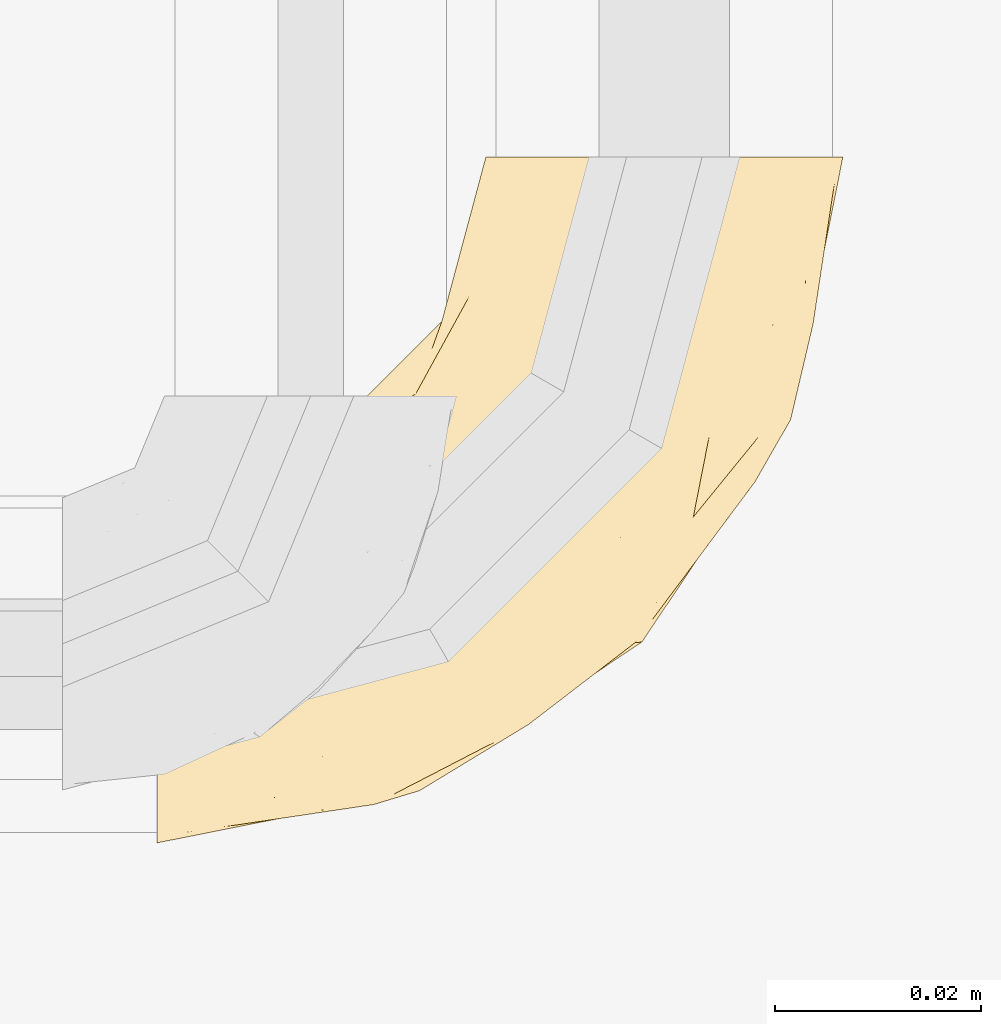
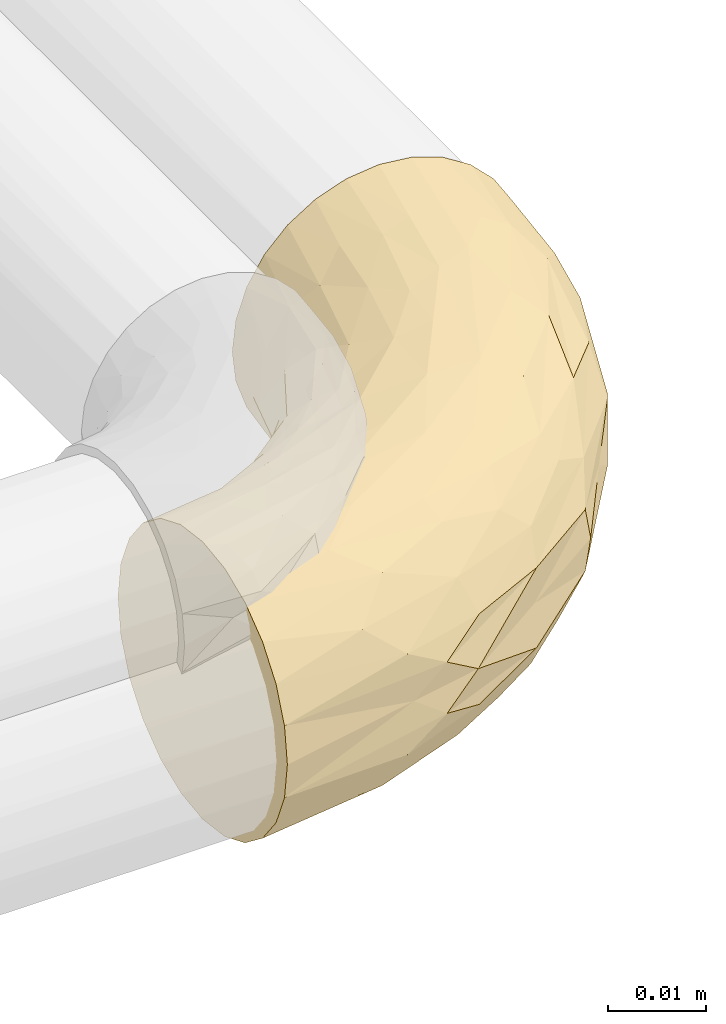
# One storey, part 8 of 30: 1 covering.
"""IFC2X3 building model written with IfcOpenShell, lengths in metres."""

from ifc_helpers import new_model, entity, si_unit, converted_unit, derived_unit, direction, frame, origin, place, context, subcontext, project, spatial, faceted_brep, material, type_object, element, save


model = new_model("IFC2X3")

# Units and contexts
model_context = context("Model", 3, precision=1e-05, world=origin(), true_north=direction((6.123031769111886e-17, 1.0)))
body_context = subcontext(model_context, "Body", "Model", "MODEL_VIEW")
ifc_project = project(units=[si_unit("LENGTHUNIT", "METRE"), si_unit("AREAUNIT", "SQUARE_METRE"), si_unit("VOLUMEUNIT", "CUBIC_METRE"), converted_unit("PLANEANGLEUNIT", "DEGREE", entity("IfcPlaneAngleMeasure", 0.017453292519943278), si_unit("PLANEANGLEUNIT", "RADIAN"), dimensions=[0, 0, 0, 0, 0, 0, 0]), si_unit("MASSUNIT", "GRAM", prefix="KILO"), derived_unit("MASSDENSITYUNIT", [(si_unit("MASSUNIT", "GRAM", prefix="KILO"), 1), (si_unit("LENGTHUNIT", "METRE"), -3)]), derived_unit("IONCONCENTRATIONUNIT", [(si_unit("MASSUNIT", "GRAM", prefix="KILO"), 1), (si_unit("LENGTHUNIT", "METRE"), -3)]), derived_unit("MOMENTOFINERTIAUNIT", [(si_unit("LENGTHUNIT", "METRE"), 4)]), si_unit("TIMEUNIT", "SECOND"), si_unit("FREQUENCYUNIT", "HERTZ"), si_unit("THERMODYNAMICTEMPERATUREUNIT", "DEGREE_CELSIUS"), derived_unit("THERMALTRANSMITTANCEUNIT", [(si_unit("MASSUNIT", "GRAM", prefix="KILO"), 1), (si_unit("THERMODYNAMICTEMPERATUREUNIT", "KELVIN"), -1), (si_unit("TIMEUNIT", "SECOND"), -3)]), derived_unit("THERMALCONDUCTANCEUNIT", [(si_unit("MASSUNIT", "GRAM", prefix="KILO"), 1), (si_unit("THERMODYNAMICTEMPERATUREUNIT", "KELVIN"), -1), (si_unit("TIMEUNIT", "SECOND"), -3), (si_unit("LENGTHUNIT", "METRE"), 1)]), derived_unit("VOLUMETRICFLOWRATEUNIT", [(si_unit("LENGTHUNIT", "METRE", prefix="DECI"), 3), (si_unit("TIMEUNIT", "SECOND"), -1)]), derived_unit("MASSFLOWRATEUNIT", [(si_unit("MASSUNIT", "GRAM", prefix="KILO"), 1), (si_unit("TIMEUNIT", "SECOND"), -1)]), derived_unit("ROTATIONALFREQUENCYUNIT", [(si_unit("TIMEUNIT", "SECOND"), -1)]), si_unit("ELECTRICCURRENTUNIT", "AMPERE"), si_unit("ELECTRICVOLTAGEUNIT", "VOLT"), si_unit("POWERUNIT", "WATT"), si_unit("FORCEUNIT", "NEWTON", prefix="KILO"), si_unit("ILLUMINANCEUNIT", "LUX"), si_unit("LUMINOUSFLUXUNIT", "LUMEN"), si_unit("LUMINOUSINTENSITYUNIT", "CANDELA"), si_unit("ENERGYUNIT", "JOULE"), derived_unit("USERDEFINED", [(si_unit("MASSUNIT", "GRAM", prefix="KILO"), -1), (si_unit("LENGTHUNIT", "METRE"), -2), (si_unit("TIMEUNIT", "SECOND"), 3), (si_unit("LUMINOUSFLUXUNIT", "LUMEN"), 1)]), derived_unit("USERDEFINED", [(si_unit("MASSUNIT", "GRAM", prefix="KILO"), 1), (si_unit("TIMEUNIT", "SECOND"), -3), (si_unit("LENGTHUNIT", "METRE"), 3), (si_unit("ELECTRICCURRENTUNIT", "AMPERE"), -2)]), derived_unit("SOUNDPOWERUNIT", [(si_unit("MASSUNIT", "GRAM", prefix="KILO"), 1), (si_unit("TIMEUNIT", "SECOND"), -3), (si_unit("LENGTHUNIT", "METRE"), 2)]), derived_unit("SOUNDPRESSUREUNIT", [(si_unit("MASSUNIT", "GRAM", prefix="KILO"), 1), (si_unit("LENGTHUNIT", "METRE"), -1), (si_unit("TIMEUNIT", "SECOND"), -2)]), derived_unit("LINEARVELOCITYUNIT", [(si_unit("LENGTHUNIT", "METRE"), 1), (si_unit("TIMEUNIT", "SECOND"), -1)]), si_unit("PRESSUREUNIT", "PASCAL"), derived_unit("USERDEFINED", [(si_unit("MASSUNIT", "GRAM", prefix="KILO"), 1), (si_unit("LENGTHUNIT", "METRE"), -2), (si_unit("TIMEUNIT", "SECOND"), -2)]), derived_unit("LINEARFORCEUNIT", [(si_unit("MASSUNIT", "GRAM", prefix="KILO"), 1), (si_unit("TIMEUNIT", "SECOND"), -2)]), derived_unit("PLANARFORCEUNIT", [(si_unit("MASSUNIT", "GRAM", prefix="KILO"), 1), (si_unit("LENGTHUNIT", "METRE"), -1), (si_unit("TIMEUNIT", "SECOND"), -2)]), derived_unit("SPECIFICHEATCAPACITYUNIT", [(si_unit("THERMODYNAMICTEMPERATUREUNIT", "KELVIN"), -1), (si_unit("LENGTHUNIT", "METRE"), 2), (si_unit("TIMEUNIT", "SECOND"), -2)]), derived_unit("HEATFLUXDENSITYUNIT", [(si_unit("MASSUNIT", "GRAM", prefix="KILO"), 1), (si_unit("TIMEUNIT", "SECOND"), -3)]), derived_unit("HEATINGVALUEUNIT", [(si_unit("LENGTHUNIT", "METRE"), 2), (si_unit("TIMEUNIT", "SECOND"), -2)]), derived_unit("VAPORPERMEABILITYUNIT", [(si_unit("LENGTHUNIT", "METRE"), -1), (si_unit("TIMEUNIT", "SECOND"), 1)]), derived_unit("DYNAMICVISCOSITYUNIT", [(si_unit("MASSUNIT", "GRAM", prefix="KILO"), 1), (si_unit("TIMEUNIT", "SECOND"), -1), (si_unit("LENGTHUNIT", "METRE"), -1)]), derived_unit("THERMALEXPANSIONCOEFFICIENTUNIT", [(si_unit("THERMODYNAMICTEMPERATUREUNIT", "KELVIN"), -1)]), derived_unit("MODULUSOFELASTICITYUNIT", [(si_unit("MASSUNIT", "GRAM", prefix="KILO"), 1), (si_unit("LENGTHUNIT", "METRE"), -1), (si_unit("TIMEUNIT", "SECOND"), -2)]), derived_unit("ISOTHERMALMOISTURECAPACITYUNIT", [(si_unit("MASSUNIT", "GRAM", prefix="KILO"), -1), (si_unit("LENGTHUNIT", "METRE"), 3)]), derived_unit("MOISTUREDIFFUSIVITYUNIT", [(si_unit("TIMEUNIT", "SECOND"), -1), (si_unit("LENGTHUNIT", "METRE"), 2)]), derived_unit("MASSPERLENGTHUNIT", [(si_unit("MASSUNIT", "GRAM", prefix="KILO"), 1), (si_unit("LENGTHUNIT", "METRE"), -1)]), derived_unit("THERMALRESISTANCEUNIT", [(si_unit("MASSUNIT", "GRAM", prefix="KILO"), -1), (si_unit("TIMEUNIT", "SECOND"), 3), (si_unit("THERMODYNAMICTEMPERATUREUNIT", "KELVIN"), 1)]), derived_unit("ACCELERATIONUNIT", [(si_unit("LENGTHUNIT", "METRE"), 1), (si_unit("TIMEUNIT", "SECOND"), -2)]), derived_unit("ANGULARVELOCITYUNIT", [(si_unit("TIMEUNIT", "SECOND"), -1), (si_unit("PLANEANGLEUNIT", "RADIAN"), 1)]), derived_unit("LINEARSTIFFNESSUNIT", [(si_unit("MASSUNIT", "GRAM", prefix="KILO"), 1), (si_unit("TIMEUNIT", "SECOND"), -2)]), derived_unit("WARPINGCONSTANTUNIT", [(si_unit("LENGTHUNIT", "METRE"), 6)]), derived_unit("LINEARMOMENTUNIT", [(si_unit("MASSUNIT", "GRAM", prefix="KILO"), 1), (si_unit("LENGTHUNIT", "METRE"), 1), (si_unit("TIMEUNIT", "SECOND"), -2)]), derived_unit("TORQUEUNIT", [(si_unit("MASSUNIT", "GRAM", prefix="KILO"), 1), (si_unit("LENGTHUNIT", "METRE"), 2), (si_unit("TIMEUNIT", "SECOND"), -2)])], contexts=[model_context])

# Site, building, storey
site_placement = place(None, origin())
site = spatial("IfcSite", under=ifc_project, at=site_placement, Name="Default", CompositionType="ELEMENT")
building_placement = place(site_placement, origin())
building = spatial("IfcBuilding", under=site, at=building_placement, CompositionType="ELEMENT")
storey_placement = place(building_placement, origin())
storey = spatial("IfcBuildingStorey", under=building, at=storey_placement, Name="Niveau 0", CompositionType="ELEMENT", Elevation=-1.949160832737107e-14)

# Covering
ifc_material = material(Name="Matériau du rendu 255-255-255")
covering_type = type_object("IfcCoveringType", Name="Isolation des canalisations:Par défaut", PredefinedType="INSULATION")
covering_placement = place(storey_placement, frame((-19.87968470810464, 1.3561078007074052, -0.4339452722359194)))
element("IfcCovering", 1, at=covering_placement, inside=storey, type_object=covering_type, material=ifc_material, Name="Isolation des canalisations:Par défaut", ObjectType="Isolation des canalisations:Par défaut", PredefinedType="INSULATION", context=body_context, shape_type="Brep", body=[
    faceted_brep([(0.050895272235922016, 0.06824527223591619, 0.036295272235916), (0.054757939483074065, 0.06824527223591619, 0.03585983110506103), (0.05842589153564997, 0.06824527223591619, 0.034575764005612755), (0.06171546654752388, 0.06824527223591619, 0.032507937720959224), (0.06446206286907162, 0.06824527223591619, 0.029760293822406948), (0.06652829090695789, 0.06824527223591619, 0.026470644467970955), (0.06781077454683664, 0.06824527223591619, 0.022803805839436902), (0.0682452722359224, 0.06824527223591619, 0.018945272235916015), (0.06780983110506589, 0.06824527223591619, 0.01508260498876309), (0.06652576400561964, 0.06824527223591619, 0.011414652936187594), (0.06445793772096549, 0.06824527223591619, 0.00812507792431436), (0.06171029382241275, 0.06824527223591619, 0.005378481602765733), (0.058420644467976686, 0.06824527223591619, 0.0033122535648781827), (0.05475380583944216, 0.06824527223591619, 0.002029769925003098), (0.050895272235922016, 0.06824527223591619, 0.0015952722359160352), (0.047032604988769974, 0.06824527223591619, 0.0020307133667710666), (0.04336465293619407, 0.06824527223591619, 0.003314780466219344), (0.04007507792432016, 0.06824527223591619, 0.005382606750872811), (0.03732848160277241, 0.06824527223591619, 0.008130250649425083), (0.035262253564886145, 0.06824527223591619, 0.011419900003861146), (0.03397976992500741, 0.06824527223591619, 0.0150867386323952), (0.03354527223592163, 0.06824527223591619, 0.018945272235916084), (0.03398071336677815, 0.06824527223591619, 0.02280793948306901), (0.0352647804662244, 0.06824527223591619, 0.026475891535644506), (0.037332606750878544, 0.06824527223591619, 0.02976546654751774), (0.04008025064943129, 0.06824527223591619, 0.03251206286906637), (0.043369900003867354, 0.06824527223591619, 0.03457829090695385), (0.047036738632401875, 0.06824527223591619, 0.035860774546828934), (0.0015952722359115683, 0.03570408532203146, 0.014454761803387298), (0.0015952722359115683, 0.033970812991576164, 0.010270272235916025), (0.0015952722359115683, 0.03121357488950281, 0.006676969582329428), (0.0015952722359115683, 0.02762027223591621, 0.003919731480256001), (0.0015952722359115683, 0.023435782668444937, 0.0021864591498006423), (0.0015952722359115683, 0.018945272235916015, 0.0015952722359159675), (0.0015952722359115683, 0.014454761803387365, 0.0021864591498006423), (0.0015952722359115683, 0.010270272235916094, 0.003919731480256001), (0.0015952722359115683, 0.006676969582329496, 0.006676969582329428), (0.0015952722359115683, 0.003919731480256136, 0.010270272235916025), (0.0015952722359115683, 0.0021864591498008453, 0.01445476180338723), (0.0015952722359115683, 0.0015952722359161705, 0.018945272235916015), (0.0015952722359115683, 0.0021864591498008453, 0.023435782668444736), (0.0015952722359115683, 0.003919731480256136, 0.027620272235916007), (0.0015952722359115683, 0.006676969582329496, 0.031213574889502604), (0.0015952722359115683, 0.010270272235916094, 0.03397081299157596), (0.0015952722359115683, 0.014454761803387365, 0.03570408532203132), (0.0015952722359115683, 0.018945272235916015, 0.036295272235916), (0.0015952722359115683, 0.023435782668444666, 0.03570408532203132), (0.0015952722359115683, 0.02762027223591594, 0.03397081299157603), (0.0015952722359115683, 0.03121357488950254, 0.031213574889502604), (0.0015952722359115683, 0.033970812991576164, 0.027620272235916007), (0.0015952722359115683, 0.03570408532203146, 0.023435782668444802), (0.0015952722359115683, 0.03629527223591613, 0.018945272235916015), (0.04461060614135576, 0.024367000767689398, 0.031334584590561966), (0.05520607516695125, 0.040880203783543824, 0.03245108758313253), (0.046627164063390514, 0.031240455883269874, 0.03378706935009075), (0.022635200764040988, 0.005317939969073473, 0.022149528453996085), (0.018502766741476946, 0.004958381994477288, 0.018945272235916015), (0.027101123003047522, 0.006668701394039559, 0.018945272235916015), (0.026428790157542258, 0.009728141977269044, 0.028816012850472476), (0.034746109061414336, 0.015760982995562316, 0.030682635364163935), (0.027248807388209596, 0.01420681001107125, 0.032743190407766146), (0.01764736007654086, 0.004776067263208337, 0.02524054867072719), (0.013004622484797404, 0.005987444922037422, 0.029200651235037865), (0.04295128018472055, 0.03372303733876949, 0.03568226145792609), (0.03645563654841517, 0.03338490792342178, 0.036295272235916), (0.03141249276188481, 0.024904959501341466, 0.03597727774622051), (0.061445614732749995, 0.05201300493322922, 0.03075267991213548), (0.05371291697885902, 0.033276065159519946, 0.029890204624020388), (0.018347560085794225, 0.017585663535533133, 0.035814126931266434), (0.026339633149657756, 0.01667542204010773, 0.03439283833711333), (0.05971173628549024, 0.036692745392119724, 0.023163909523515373), (0.06535510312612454, 0.05204597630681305, 0.024353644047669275), (0.059929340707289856, 0.04090792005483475, 0.027451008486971), (0.017676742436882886, 0.010004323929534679, 0.032262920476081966), (0.04714253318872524, 0.0493789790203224, 0.036295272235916), (0.04179908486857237, 0.041381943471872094, 0.036295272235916), (0.01316791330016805, 0.013063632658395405, 0.03478404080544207), (0.03768974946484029, 0.013097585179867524, 0.023959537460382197), (0.048058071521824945, 0.021058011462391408, 0.022772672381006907), (0.05009999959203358, 0.02491877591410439, 0.02624933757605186), (0.06570855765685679, 0.05549234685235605, 0.018945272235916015), (0.0383757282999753, 0.015418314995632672, 0.02754290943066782), (0.028042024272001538, 0.008103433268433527, 0.024608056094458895), (0.0645991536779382, 0.05599549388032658, 0.027861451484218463), (0.0631718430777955, 0.04273942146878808, 0.018945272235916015), (0.04921371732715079, 0.059791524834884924, 0.036295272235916), (0.051792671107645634, 0.05151216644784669, 0.03591493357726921), (0.05932311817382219, 0.05592114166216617, 0.033311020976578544), (0.03696754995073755, 0.024527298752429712, 0.03484866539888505), (0.05614202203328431, 0.05642461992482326, 0.03502647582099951), (0.03623295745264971, 0.020046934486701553, 0.03308556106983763), (0.05241841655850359, 0.04390302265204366, 0.03479750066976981), (0.028458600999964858, 0.028041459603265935, 0.036295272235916), (0.02046156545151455, 0.022698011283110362, 0.036295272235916), (0.04901890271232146, 0.05881212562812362, 0.036295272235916), (0.05594789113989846, 0.03192801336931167, 0.018945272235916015), (0.045751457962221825, 0.0225377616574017, 0.028838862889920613), (0.0379125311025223, 0.01389265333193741, 0.018945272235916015), (0.010049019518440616, 0.020626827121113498, 0.036295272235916), (0.04872393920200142, 0.021116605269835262, 0.018945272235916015), (0.035620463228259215, 0.06012681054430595, 0.028741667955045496), (0.012762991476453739, 0.02554511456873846, 0.03550907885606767), (0.020812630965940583, 0.03816302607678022, 0.029714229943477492), (0.012286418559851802, 0.03369863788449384, 0.030278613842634), (0.02251144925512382, 0.03585312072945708, 0.03257014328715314), (0.04260303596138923, 0.04758380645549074, 0.0359626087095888), (0.045399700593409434, 0.05793604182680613, 0.035754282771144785), (0.04014164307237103, 0.05179104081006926, 0.03464339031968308), (0.02204334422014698, 0.027448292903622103, 0.03590367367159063), (0.01760257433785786, 0.031246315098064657, 0.033786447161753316), (0.031224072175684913, 0.05558856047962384, 0.021988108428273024), (0.0334490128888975, 0.0610921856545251, 0.023813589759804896), (0.0313255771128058, 0.05996125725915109, 0.018945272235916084), (0.03422892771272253, 0.04550906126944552, 0.03344556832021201), (0.03727571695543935, 0.041544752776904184, 0.035636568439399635), (0.00888733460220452, 0.02949372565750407, 0.03321547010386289), (0.01435727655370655, 0.03852252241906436, 0.022634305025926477), (0.009879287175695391, 0.038514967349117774, 0.01894527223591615), (0.00758599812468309, 0.03659242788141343, 0.02196477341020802), (0.037997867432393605, 0.057971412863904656, 0.03195826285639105), (0.03304464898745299, 0.05019700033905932, 0.03039020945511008), (0.009229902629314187, 0.03603849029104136, 0.025154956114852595), (0.016770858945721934, 0.038175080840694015, 0.026502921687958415), (0.04176616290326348, 0.06050425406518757, 0.03413176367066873), (0.026739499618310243, 0.04525391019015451, 0.027257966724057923), (0.027451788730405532, 0.04141450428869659, 0.03143954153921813), (0.029264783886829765, 0.05227027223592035, 0.018945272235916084), (0.023249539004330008, 0.04415845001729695, 0.02282584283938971), (0.017570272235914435, 0.04057576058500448, 0.018945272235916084), (0.02887512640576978, 0.03407046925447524, 0.03537608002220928), (0.03189092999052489, 0.05464264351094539, 0.02543466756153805), (0.02826597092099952, 0.04949521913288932, 0.023656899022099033), (0.023417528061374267, 0.04642301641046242, 0.018945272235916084), (0.0291790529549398, 0.03870099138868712, 0.03385023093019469), (0.012286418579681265, 0.03369863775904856, 0.007611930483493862), (0.03561656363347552, 0.06012621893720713, 0.009154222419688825), (0.03799129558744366, 0.05796574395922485, 0.0059365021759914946), (0.0075859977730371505, 0.036592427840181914, 0.01592577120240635), (0.04259271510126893, 0.047594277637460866, 0.001930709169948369), (0.04179908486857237, 0.041381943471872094, 0.0015952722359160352), (0.0372469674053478, 0.04154972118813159, 0.0022613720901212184), (0.033036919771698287, 0.05019606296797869, 0.007507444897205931), (0.027451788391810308, 0.04141450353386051, 0.006451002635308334), (0.02918968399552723, 0.03870907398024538, 0.004039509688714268), (0.02252106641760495, 0.035853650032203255, 0.005316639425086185), (0.03344737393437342, 0.06109515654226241, 0.014084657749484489), (0.028875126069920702, 0.03407046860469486, 0.002514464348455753), (0.022043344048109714, 0.027448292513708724, 0.0019868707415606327), (0.01760257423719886, 0.03124631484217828, 0.004104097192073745), (0.012762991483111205, 0.02554511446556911, 0.0023814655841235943), (0.010049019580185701, 0.020626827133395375, 0.0015952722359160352), (0.04175980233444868, 0.06049677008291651, 0.003761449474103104), (0.04539407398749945, 0.057931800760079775, 0.002137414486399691), (0.04013105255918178, 0.05177761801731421, 0.0032492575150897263), (0.00922990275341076, 0.03603849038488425, 0.012735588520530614), (0.008887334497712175, 0.02949372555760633, 0.004675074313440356), (0.03422554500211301, 0.04552472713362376, 0.00445268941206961), (0.014357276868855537, 0.03852252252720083, 0.015256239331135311), (0.028258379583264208, 0.04948512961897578, 0.014235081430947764), (0.026712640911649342, 0.04523640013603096, 0.010647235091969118), (0.023230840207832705, 0.04414337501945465, 0.015070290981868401), (0.03122364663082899, 0.05558905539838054, 0.01590572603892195), (0.03189268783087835, 0.05465211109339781, 0.01246151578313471), (0.01677085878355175, 0.038175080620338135, 0.011387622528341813), (0.04921371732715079, 0.05979152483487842, 0.0015952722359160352), (0.04901890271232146, 0.05881212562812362, 0.0015952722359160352), (0.04714253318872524, 0.0493789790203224, 0.0015952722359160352), (0.02046156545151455, 0.022698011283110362, 0.0015952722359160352), (0.028458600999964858, 0.028041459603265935, 0.0015952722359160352), (0.020805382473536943, 0.03815555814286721, 0.00817329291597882), (0.03645563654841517, 0.03338490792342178, 0.0015952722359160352), (0.027228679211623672, 0.014201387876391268, 0.005144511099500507), (0.03476363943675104, 0.01576489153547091, 0.00721450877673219), (0.02642879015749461, 0.009728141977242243, 0.009074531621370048), (0.022635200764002, 0.0053179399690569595, 0.015741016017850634), (0.02804202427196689, 0.008103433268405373, 0.013282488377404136), (0.03768974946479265, 0.013097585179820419, 0.01393100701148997), (0.05992974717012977, 0.040915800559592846, 0.010434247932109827), (0.06535408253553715, 0.05204814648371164, 0.01353225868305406), (0.059705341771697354, 0.03668245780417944, 0.014723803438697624), (0.055201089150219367, 0.04088029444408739, 0.00543584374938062), (0.046606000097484, 0.0312294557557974, 0.004097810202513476), (0.05242173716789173, 0.04392259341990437, 0.0030906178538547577), (0.042970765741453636, 0.033757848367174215, 0.0022062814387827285), (0.01834045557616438, 0.017583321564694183, 0.0020764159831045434), (0.026339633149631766, 0.016675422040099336, 0.003497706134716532), (0.0362159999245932, 0.02002725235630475, 0.00480931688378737), (0.013166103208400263, 0.013061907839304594, 0.0031070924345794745), (0.017647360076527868, 0.004776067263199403, 0.012649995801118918), (0.0645955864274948, 0.05599323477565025, 0.010023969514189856), (0.013004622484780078, 0.005987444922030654, 0.008689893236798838), (0.038351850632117, 0.01539871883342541, 0.010351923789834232), (0.01767674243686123, 0.010004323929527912, 0.0056276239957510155), (0.05931818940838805, 0.055922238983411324, 0.0045761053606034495), (0.06144180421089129, 0.05201579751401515, 0.00713311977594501), (0.05178953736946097, 0.05151520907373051, 0.00197477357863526), (0.05783699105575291, 0.04090335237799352, 0.00772746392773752), (0.04461060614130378, 0.02436700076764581, 0.006555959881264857), (0.05616681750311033, 0.056683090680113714, 0.002851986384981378), (0.04806993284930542, 0.021070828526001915, 0.015114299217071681), (0.05009283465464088, 0.024916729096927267, 0.011632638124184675), (0.03141789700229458, 0.024899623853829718, 0.0019147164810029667), (0.037018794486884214, 0.024551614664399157, 0.003047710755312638), (0.045714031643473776, 0.022503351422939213, 0.009049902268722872), (0.05365558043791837, 0.03153712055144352, 0.009268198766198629)], [[[0, 1, 2, 3, 4, 5, 6, 7, 8, 9, 10, 11, 12, 13, 14, 15, 16, 17, 18, 19, 20, 21, 22, 23, 24, 25, 26, 27]], [[28, 29, 30, 31, 32, 33, 34, 35, 36, 37, 38, 39, 40, 41, 42, 43, 44, 45, 46, 47, 48, 49, 50, 51]], [[52, 53, 54]], [[55, 56, 57]], [[58, 59, 60]], [[61, 58, 62]], [[63, 64, 65]], [[61, 41, 40]], [[66, 53, 67]], [[68, 69, 65]], [[70, 71, 72]], [[62, 73, 42]], [[63, 74, 75, 64]], [[45, 44, 68]], [[69, 68, 76]], [[77, 78, 79]], [[42, 73, 43]], [[80, 7, 6]], [[58, 81, 59]], [[61, 55, 82]], [[71, 5, 83]], [[84, 71, 70]], [[83, 5, 4]], [[6, 71, 80]], [[71, 84, 80]], [[77, 55, 57]], [[5, 71, 6]], [[3, 66, 4]], [[1, 0, 85]], [[63, 86, 74]], [[66, 87, 53]], [[62, 42, 41]], [[63, 65, 88]], [[1, 86, 89]], [[40, 56, 55]], [[73, 60, 76]], [[83, 72, 71]], [[90, 59, 52]], [[40, 55, 61]], [[87, 66, 3]], [[4, 66, 83]], [[87, 3, 2]], [[72, 83, 66]], [[91, 89, 86]], [[53, 87, 91]], [[54, 53, 91]], [[67, 53, 52]], [[63, 54, 91]], [[54, 88, 90]], [[91, 87, 89]], [[65, 64, 92, 93]], [[86, 63, 91]], [[86, 85, 94, 74]], [[1, 85, 86]], [[70, 72, 79]], [[78, 95, 70]], [[67, 79, 72]], [[59, 81, 96]], [[40, 39, 56]], [[77, 57, 97]], [[82, 55, 77]], [[87, 2, 89]], [[1, 89, 2]], [[81, 82, 77]], [[58, 61, 82]], [[68, 65, 93]], [[88, 65, 69]], [[68, 93, 98, 45]], [[76, 68, 44]], [[90, 88, 69]], [[54, 63, 88]], [[60, 90, 69]], [[54, 90, 52]], [[59, 90, 60]], [[82, 81, 58]], [[77, 79, 81]], [[96, 81, 79]], [[44, 43, 76]], [[73, 76, 43]], [[61, 62, 41]], [[73, 62, 58]], [[76, 60, 69]], [[60, 73, 58]], [[70, 79, 78]], [[95, 84, 70]], [[67, 52, 96]], [[78, 97, 99]], [[66, 67, 72]], [[97, 78, 77]], [[78, 99, 95]], [[67, 96, 79]], [[59, 96, 52]], [[100, 24, 23]], [[93, 101, 98]], [[102, 103, 104]], [[98, 101, 46]], [[105, 106, 107]], [[108, 109, 101]], [[110, 111, 112]], [[92, 108, 93]], [[113, 114, 107]], [[47, 115, 48]], [[116, 117, 118]], [[49, 48, 103]], [[119, 100, 120]], [[100, 119, 24]], [[121, 122, 116]], [[119, 120, 113]], [[103, 122, 121]], [[115, 103, 48]], [[119, 107, 123]], [[123, 26, 25]], [[118, 51, 50]], [[26, 106, 27]], [[106, 74, 94]], [[46, 101, 47]], [[115, 101, 109]], [[123, 106, 26]], [[124, 125, 120]], [[22, 21, 112]], [[119, 25, 24]], [[110, 112, 126]], [[111, 23, 22]], [[114, 75, 105]], [[116, 127, 128]], [[122, 127, 116]], [[64, 129, 92]], [[106, 94, 27]], [[111, 100, 23]], [[109, 129, 104]], [[130, 124, 120]], [[130, 120, 100]], [[120, 125, 113]], [[130, 110, 131]], [[102, 124, 122]], [[121, 118, 50]], [[27, 94, 85, 0]], [[128, 117, 116]], [[127, 122, 124]], [[131, 124, 130]], [[131, 132, 127]], [[119, 123, 25]], [[106, 123, 107]], [[108, 101, 93]], [[113, 107, 119]], [[129, 133, 104]], [[125, 133, 113]], [[113, 133, 114]], [[129, 64, 114]], [[75, 74, 105]], [[92, 129, 108]], [[109, 108, 129]], [[46, 45, 98]], [[111, 110, 130]], [[126, 131, 110]], [[124, 131, 127]], [[111, 130, 100]], [[112, 111, 22]], [[50, 49, 121]], [[103, 121, 49]], [[101, 115, 47]], [[103, 115, 109]], [[116, 118, 121]], [[51, 118, 117]], [[133, 125, 104]], [[114, 133, 129]], [[102, 104, 125]], [[103, 109, 104]], [[124, 102, 125]], [[103, 102, 122]], [[114, 64, 75]], [[106, 105, 74]], [[107, 114, 105]], [[132, 131, 126]], [[132, 128, 127]], [[30, 29, 134]], [[135, 18, 136]], [[51, 117, 137]], [[138, 139, 140]], [[141, 135, 136]], [[142, 143, 144]], [[145, 112, 20]], [[146, 147, 148]], [[149, 150, 32]], [[151, 152, 153]], [[134, 29, 154]], [[155, 31, 30]], [[18, 135, 19]], [[149, 32, 31]], [[156, 141, 136]], [[157, 117, 128]], [[158, 159, 160]], [[126, 112, 161]], [[161, 145, 162]], [[155, 149, 31]], [[154, 28, 137]], [[17, 151, 136]], [[18, 17, 136]], [[145, 19, 135]], [[135, 141, 162]], [[17, 16, 151]], [[16, 15, 152]], [[146, 144, 143]], [[143, 140, 146]], [[159, 163, 160]], [[15, 14, 164, 165]], [[15, 165, 152]], [[138, 152, 166]], [[141, 159, 162]], [[155, 134, 148]], [[112, 21, 20]], [[167, 147, 168]], [[144, 169, 142]], [[145, 135, 162]], [[156, 136, 153]], [[141, 142, 159]], [[169, 159, 142]], [[157, 160, 163]], [[157, 128, 160]], [[166, 152, 165]], [[154, 137, 157]], [[157, 163, 154]], [[158, 132, 126]], [[126, 161, 158]], [[152, 151, 16]], [[136, 151, 153]], [[168, 146, 170]], [[149, 147, 167]], [[156, 142, 141]], [[140, 156, 153]], [[143, 142, 156]], [[140, 153, 138]], [[170, 146, 140]], [[148, 147, 149]], [[146, 168, 147]], [[150, 149, 167]], [[150, 33, 32]], [[158, 161, 162]], [[159, 158, 162]], [[160, 132, 158]], [[112, 145, 161]], [[19, 145, 20]], [[134, 154, 163]], [[29, 28, 154]], [[134, 155, 30]], [[149, 155, 148]], [[51, 137, 28]], [[157, 137, 117]], [[140, 143, 156]], [[144, 146, 148]], [[148, 134, 144]], [[169, 134, 163]], [[134, 169, 144]], [[159, 169, 163]], [[139, 138, 166]], [[139, 170, 140]], [[152, 138, 153]], [[160, 128, 132]], [[171, 172, 173]], [[174, 175, 176]], [[177, 178, 179]], [[180, 181, 182]], [[183, 182, 181]], [[184, 33, 150, 167]], [[171, 185, 186]], [[184, 187, 34]], [[174, 38, 188]], [[177, 189, 178]], [[36, 190, 37]], [[176, 175, 191]], [[192, 36, 35]], [[37, 190, 188]], [[174, 176, 57]], [[193, 11, 194]], [[183, 166, 195]], [[175, 174, 188]], [[195, 166, 165, 164]], [[56, 174, 57]], [[10, 194, 11]], [[196, 197, 180]], [[179, 178, 84]], [[12, 193, 198]], [[11, 193, 12]], [[190, 192, 173]], [[179, 95, 199]], [[189, 9, 178]], [[193, 180, 182]], [[9, 189, 10]], [[8, 80, 178]], [[177, 179, 200]], [[201, 170, 183]], [[177, 194, 189]], [[37, 188, 38]], [[178, 9, 8]], [[194, 177, 196]], [[164, 14, 13]], [[187, 192, 35]], [[167, 201, 184]], [[194, 10, 189]], [[180, 193, 194]], [[198, 182, 195]], [[196, 180, 194]], [[181, 180, 197]], [[185, 202, 186]], [[201, 167, 168, 170]], [[201, 202, 185]], [[183, 170, 139, 166]], [[195, 182, 183]], [[164, 13, 195]], [[198, 13, 12]], [[199, 95, 99]], [[200, 199, 176]], [[191, 173, 172]], [[200, 203, 204]], [[174, 56, 38]], [[56, 39, 38]], [[199, 97, 176]], [[182, 198, 193]], [[13, 198, 195]], [[188, 173, 175]], [[191, 175, 173]], [[202, 201, 183]], [[184, 201, 185]], [[187, 184, 185]], [[33, 184, 34]], [[183, 181, 202]], [[186, 181, 197]], [[181, 186, 202]], [[186, 197, 172]], [[191, 203, 200]], [[171, 173, 192]], [[203, 172, 197]], [[200, 176, 191]], [[187, 185, 171]], [[35, 34, 187]], [[192, 190, 36]], [[188, 190, 173]], [[172, 171, 186]], [[187, 171, 192]], [[179, 84, 95]], [[80, 8, 7]], [[80, 84, 178]], [[97, 57, 176]], [[177, 200, 204]], [[179, 199, 200]], [[97, 199, 99]], [[172, 203, 191]], [[204, 197, 196]], [[197, 204, 203]], [[177, 204, 196]]]),
])

save(model, "model.ifc")
